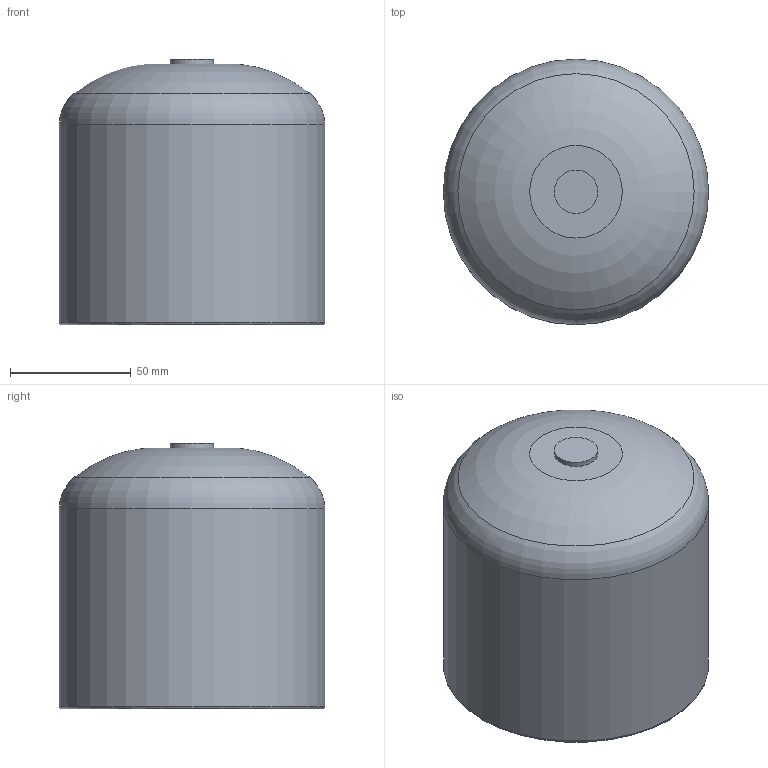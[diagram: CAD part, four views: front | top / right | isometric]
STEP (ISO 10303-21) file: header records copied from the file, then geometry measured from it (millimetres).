
FILE_DESCRIPTION(/* description */ ('Unknown'),/* implementation_level */ '2;1');
FILE_NAME(/* name */ 'CAP110G',/* time_stamp */ '2022-04-05T11:54:54+02:00',/* author */ ('Unknown'),/* organization */ ('Unknown'),/* preprocessor_version */ 'ST-DEVELOPER v18.1',/* originating_system */ 'Solid Edge',/* authorisation */ 'Unknown');
FILE_SCHEMA (('AUTOMOTIVE_DESIGN {1 0 10303 214 3 1 1}'));
Length unit declared in the file: millimetre
Products named in the file (1): CAP110G
Bounding box: 110 x 110 x 110 mm (x, y, z)
Volume: 479192.1 mm3; surface area: 74742.4 mm2
Topology: 1 solids, 1 shells, 87 faces, 230 edges, 147 vertices
Faces by surface type: bspline 48, torus 22, plane 12, cylinder 3, cone 2
Full cylindrical faces by diameter (mm): 18 x1, 85.4 x1, 110 x1
Entity records: 3330 total; most frequent: CARTESIAN_POINT 1674, ORIENTED_EDGE 426, EDGE_CURVE 213, DIRECTION 202, B_SPLINE_CURVE_WITH_KNOTS 152, VERTEX_POINT 141, AXIS2_PLACEMENT_3D 101, EDGE_LOOP 100
